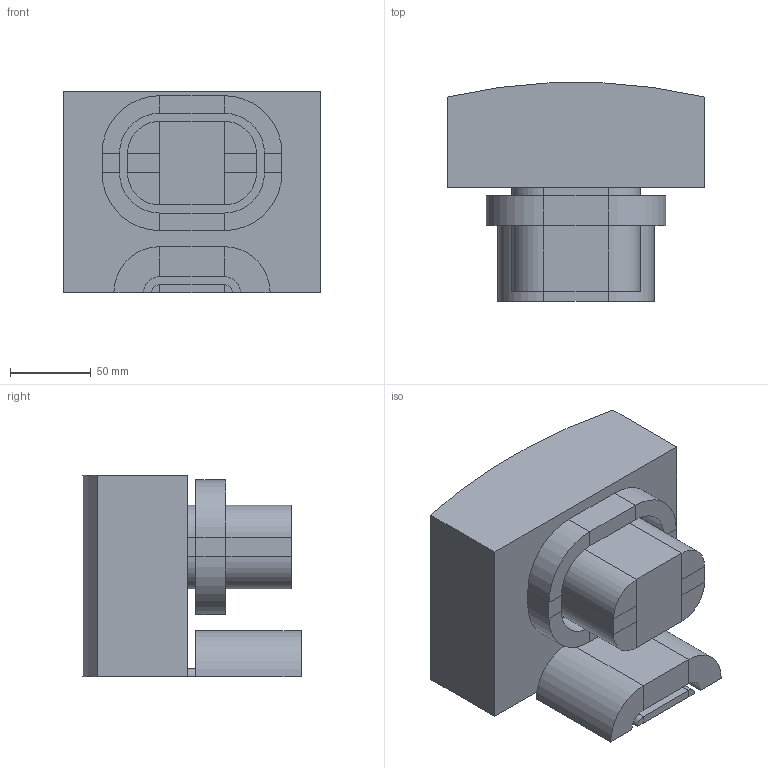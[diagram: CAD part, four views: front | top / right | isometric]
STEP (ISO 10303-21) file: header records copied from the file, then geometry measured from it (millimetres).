
FILE_DESCRIPTION(('STEP AP214'),'1');
FILE_NAME('SWLS_Sirius_Model5_step.step','2021-12-14T13:32:24',(' '),(' '),'Spatial InterOp 3D',' ',' ');
FILE_SCHEMA(('AUTOMOTIVE_DESIGN { 1 0 10303 214 1 1 1 1 }'));
Length unit declared in the file: millimetre
Products named in the file (1): Yoke
Bounding box: 160 x 135.47 x 125 mm (x, y, z)
Volume: 1691763.3 mm3; surface area: 174403.5 mm2
Topology: 22 solids, 22 shells, 126 faces, 246 edges, 164 vertices
Faces by surface type: plane 107, cylinder 19
Entity records: 3287 total; most frequent: DIRECTION 580, CARTESIAN_POINT 558, ORIENTED_EDGE 492, EDGE_CURVE 246, LINE 208, VECTOR 208, AXIS2_PLACEMENT_3D 186, VERTEX_POINT 164
